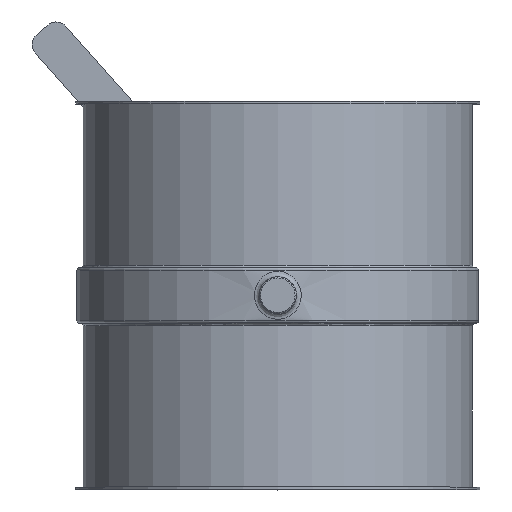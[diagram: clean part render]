
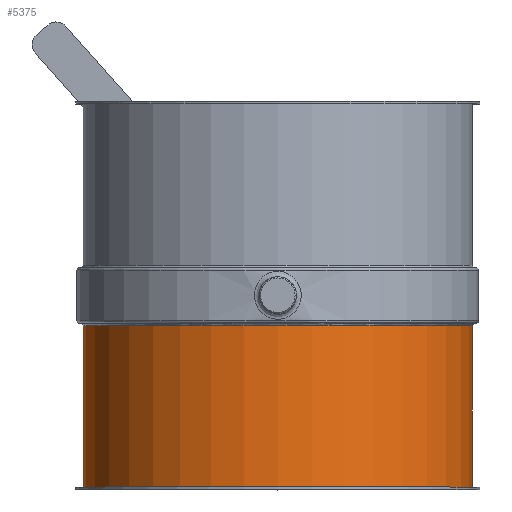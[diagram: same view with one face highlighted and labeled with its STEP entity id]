
A CAD part, top view. The second image highlights one B-rep face of the part: STEP entity #5375.
In plain terms, the highlighted cylindrical face has radius 158 mm (diameter 316 mm), a full revolution.
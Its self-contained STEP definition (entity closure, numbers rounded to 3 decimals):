
#5088=CARTESIAN_POINT('',(0.0,2.041,0.));
#5089=VERTEX_POINT('',#5088);
#5090=CARTESIAN_POINT('',(-158.,2.041,0.0));
#5091=DIRECTION('',(0.0,1.0,0.0));
#5092=DIRECTION('',(1.0,0.0,0.0));
#5093=AXIS2_PLACEMENT_3D('',#5090,#5091,#5092);
#5094=CIRCLE('',#5093,158.);
#5095=EDGE_CURVE('',#5089,#5089,#5094,.T.);
#5349=CARTESIAN_POINT('',(0.,133.041,0.0));
#5350=VERTEX_POINT('',#5349);
#5351=CARTESIAN_POINT('',(-158.,133.041,0.0));
#5352=DIRECTION('',(0.0,-1.0,0.0));
#5353=DIRECTION('',(1.0,0.0,0.0));
#5354=AXIS2_PLACEMENT_3D('',#5351,#5352,#5353);
#5355=CIRCLE('',#5354,158.);
#5356=EDGE_CURVE('',#5350,#5350,#5355,.T.);
#5364=CARTESIAN_POINT('',(-158.,66.541,0.0));
#5365=DIRECTION('',(0.0,-1.0,0.0));
#5366=DIRECTION('',(1.0,0.0,0.0));
#5367=AXIS2_PLACEMENT_3D('',#5364,#5365,#5366);
#5368=CYLINDRICAL_SURFACE('',#5367,158.);
#5369=ORIENTED_EDGE('',*,*,#5095,.T.);
#5370=EDGE_LOOP('',(#5369));
#5371=FACE_OUTER_BOUND('',#5370,.T.);
#5372=ORIENTED_EDGE('',*,*,#5356,.T.);
#5373=EDGE_LOOP('',(#5372));
#5374=FACE_BOUND('',#5373,.T.);
#5375=ADVANCED_FACE('',(#5371,#5374),#5368,.T.);
